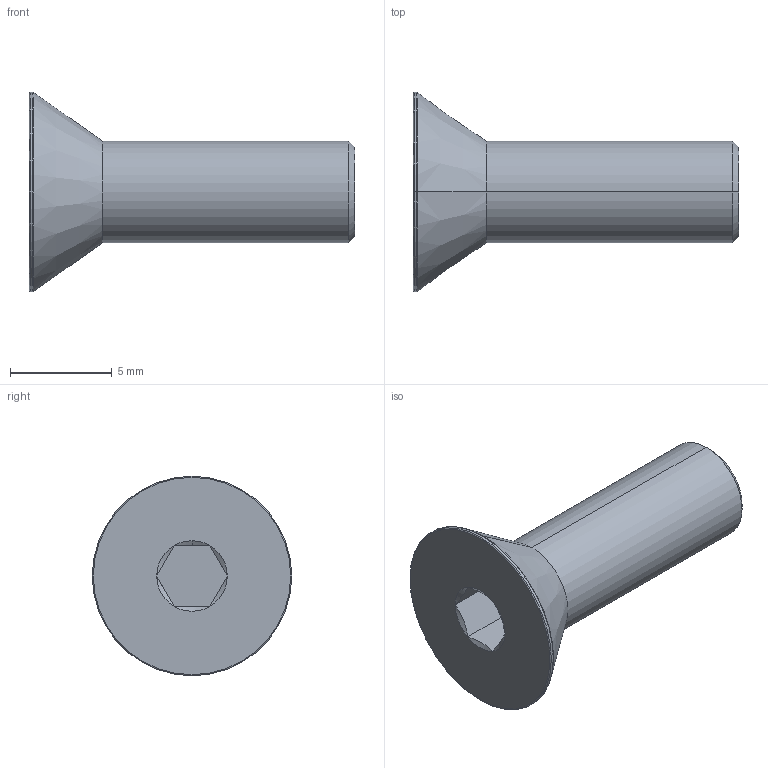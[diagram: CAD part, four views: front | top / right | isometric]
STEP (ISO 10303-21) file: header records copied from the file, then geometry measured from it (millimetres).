
FILE_DESCRIPTION (( 'STEP AP203' ), '1' );
FILE_NAME ('LGDB-304-M5x16.STEP', '2026-08-12T01:35:07', ( '' ), ( '' ), 'SwSTEP 2.0', 'SolidWorks 2020', '' );
FILE_SCHEMA (( 'CONFIG_CONTROL_DESIGN' ));
Length unit declared in the file: millimetre
Products named in the file (1): LGDB-304-M5x16
Bounding box: 16 x 9.8 x 9.8 mm (x, y, z)
Volume: 389.6 mm3; surface area: 414.5 mm2
Topology: 1 solids, 1 shells, 28 faces, 53 edges, 28 vertices
Faces by surface type: cone 11, plane 9, torus 4, cylinder 4
Entity records: 784 total; most frequent: CARTESIAN_POINT 145, DIRECTION 129, ORIENTED_EDGE 106, AXIS2_PLACEMENT_3D 54, EDGE_CURVE 53, EDGE_LOOP 29, VERTEX_POINT 28, FACE_OUTER_BOUND 28
